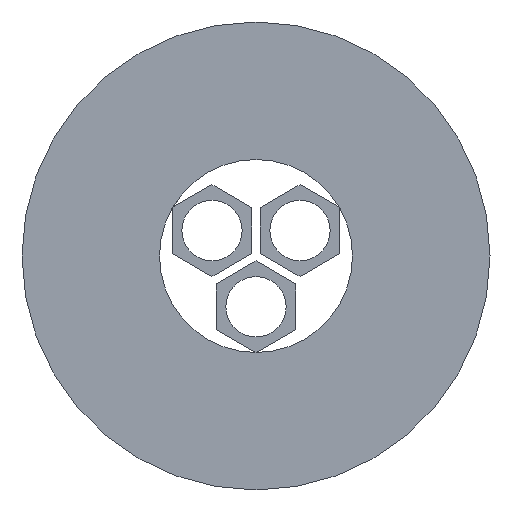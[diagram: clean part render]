
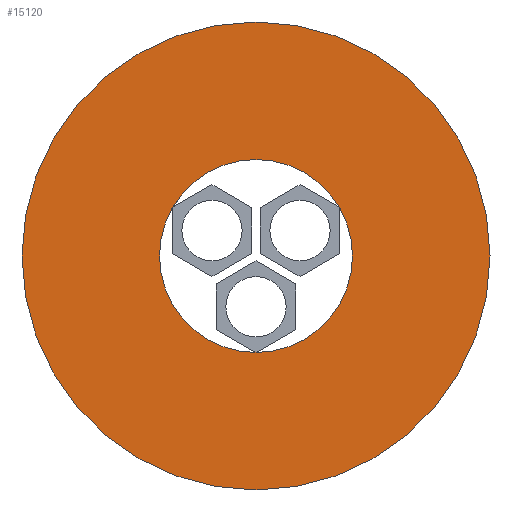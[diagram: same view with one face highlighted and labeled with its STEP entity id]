
A CAD part, front view. The second image highlights one B-rep face of the part: STEP entity #15120.
In plain terms, the highlighted planar face has unit normal (0, -1, 0).
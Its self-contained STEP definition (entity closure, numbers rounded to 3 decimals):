
#11040=CARTESIAN_POINT('',(-194.976,36.121,0.));
#11050=VERTEX_POINT('',#11040);
#11130=CARTESIAN_POINT('',(-210.976,36.121,
0.));
#11140=VERTEX_POINT('',#11130);
#11170=CARTESIAN_POINT('',(-202.976,36.121,0.));
#11180=DIRECTION('',(0.,1.,0.));
#11190=DIRECTION('',(1.,0.,0.));
#11200=AXIS2_PLACEMENT_3D('',#11170,#11180,#11190);
#11210=CIRCLE('',#11200,8.);
#11220=EDGE_CURVE('',#11140,#11050,#11210,.T.);
#14740=CARTESIAN_POINT('',(-222.376,36.121,
0.));
#14750=VERTEX_POINT('',#14740);
#14780=CARTESIAN_POINT('',(-202.976,36.121,0.));
#14790=DIRECTION('',(0.,-1.,0.));
#14800=DIRECTION('',(1.,0.,0.));
#14810=AXIS2_PLACEMENT_3D('',#14780,#14790,#14800);
#14820=CIRCLE('',#14810,19.4);
#14830=CARTESIAN_POINT('',(-183.576,36.121,
0.));
#14840=VERTEX_POINT('',#14830);
#14850=EDGE_CURVE('',#14750,#14840,#14820,.T.);
#14970=CARTESIAN_POINT('',(-193.276,36.121,
0.));
#14980=DIRECTION('',(0.,-1.,0.));
#14990=DIRECTION('',(1.,0.,0.));
#15000=AXIS2_PLACEMENT_3D('',#14970,#14980,#14990);
#15010=PLANE('',#15000);
#15020=EDGE_CURVE('',#14840,#14750,#14820,.T.);
#15030=ORIENTED_EDGE('',*,*,#15020,.T.);
#15040=ORIENTED_EDGE('',*,*,#14850,.T.);
#15050=EDGE_LOOP('',(#15040,#15030));
#15060=FACE_OUTER_BOUND('',#15050,.T.);
#15070=EDGE_CURVE('',#11050,#11140,#11210,.T.);
#15080=ORIENTED_EDGE('',*,*,#15070,.T.);
#15090=ORIENTED_EDGE('',*,*,#11220,.T.);
#15100=EDGE_LOOP('',(#15090,#15080));
#15110=FACE_BOUND('',#15100,.T.);
#15120=ADVANCED_FACE('',(#15060,#15110),#15010,.T.);
